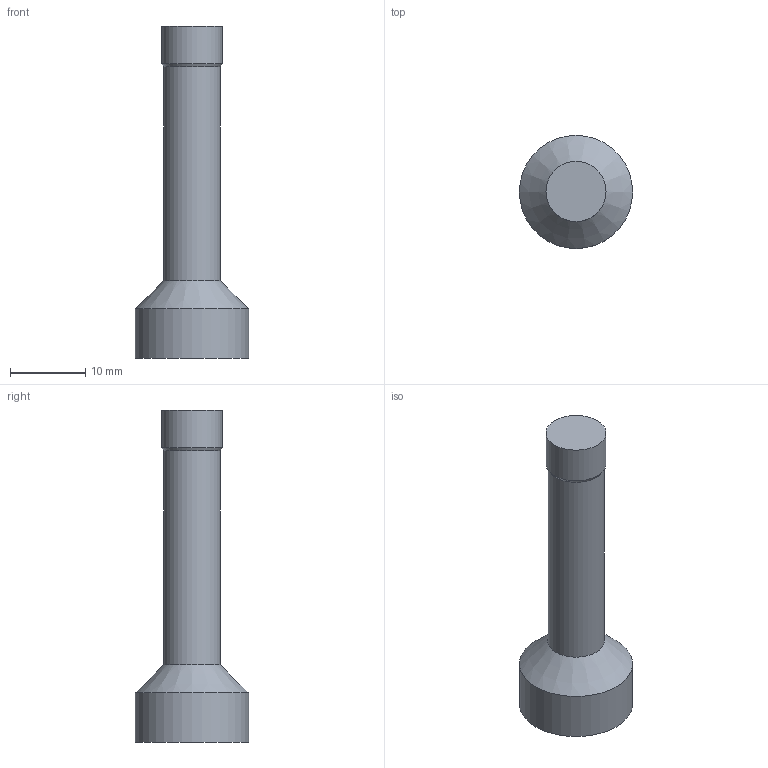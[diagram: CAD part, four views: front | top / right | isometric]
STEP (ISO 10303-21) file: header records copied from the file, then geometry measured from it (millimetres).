
FILE_DESCRIPTION(('Open CASCADE Model'),'2;1');
FILE_NAME('COMPOUND','2026-10-16T15:25:18',('Author'),('Open CASCADE'), 'Open CASCADE STEP processor 7.8','build123d','Unknown');
FILE_SCHEMA(('AUTOMOTIVE_DESIGN { 1 0 10303 214 1 1 1 1 }'));
Length unit declared in the file: millimetre
Products named in the file (2): =>[0:1:1:2]; COMPOUND
Assembly tree (1 placements, depth 2):
  =>[0:1:1:2]
    COMPOUND
Bounding box: 15 x 15 x 44 mm (x, y, z)
Volume: 2695.7 mm3; surface area: 1898.5 mm2
Topology: 1 solids, 1 shells, 10 faces, 17 edges, 10 vertices
Faces by surface type: plane 4, cylinder 4, cone 2
Full cylindrical faces by diameter (mm): 7.5 x1, 7.96 x1, 15 x1
Entity records: 486 total; most frequent: DIRECTION 83, CARTESIAN_POINT 73, LINE 39, VECTOR 39, ORIENTED_EDGE 34, PCURVE 34, DEFINITIONAL_REPRESENTATION 34, AXIS2_PLACEMENT_3D 20
